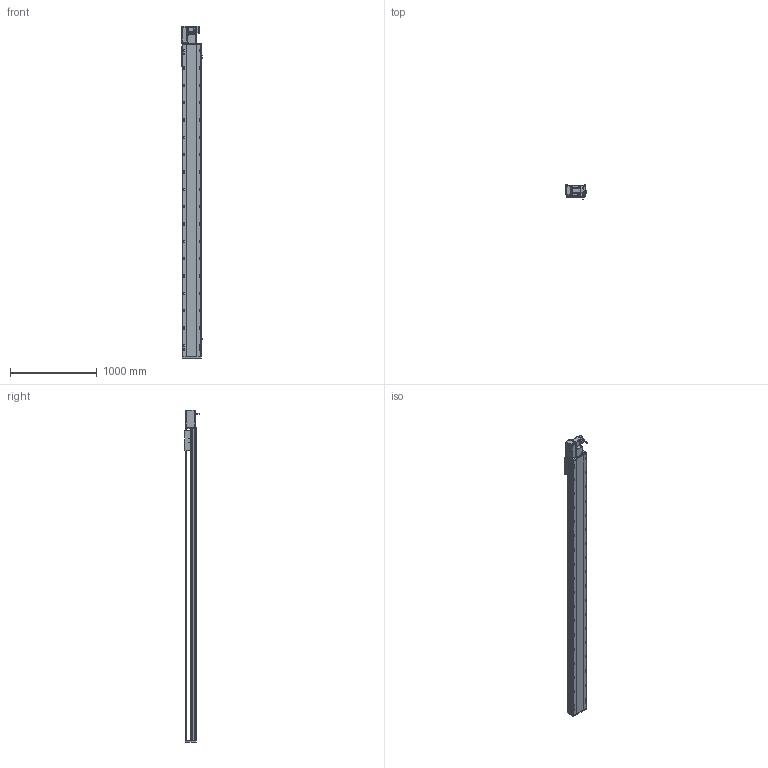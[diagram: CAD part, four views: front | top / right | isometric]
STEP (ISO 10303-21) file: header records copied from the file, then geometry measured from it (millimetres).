
FILE_DESCRIPTION (( 'STEP AP214' ), '1' );
FILE_NAME ('RTB22S-XX-3250-L-M75-C4.STEP', '2025-12-12T03:34:06', ( '' ), ( '' ), 'SwSTEP 2.0', 'SolidWorks 2018', '' );
FILE_SCHEMA (( 'AUTOMOTIVE_DESIGN' ));
Length unit declared in the file: millimetre
Products named in the file (14): RTH22-GY-013外置感应片^RTB22S-XX-XX-L-M75-C4; RTB22S-GY-014--々湍釱^RTB22S-L-々湍釱蚾饜_RTB22S-XX-XX-L-M75-C4; RTB22S-L-011菁釱^RTB22S-XX-XX-L-M75-C4; RTB22S-GY-018P^RTB22S-L-々湍釱蚾饜_RTB22S-XX-XX-L-M75-C4; RTB22S-GY-008-M75--萇儂啣^RTB22S-L-々湍釱蚾饜_RTB22S-XX-XX-L-M75-C4; RTB22S-GY-005P^RTB22S-L-々湍釱蚾饜_RTB22S-XX-XX-L-M75-C4; RTB22S-L-004賑釱^RTB22S-XX-XX-L-M75-C4; OMRON EE-SX672 传感器^RTB22S-XX-XX-L-M75-C4; RTB22S-GY-007奻裔^RTB22S-XX-XX-L-M75-C4; RTB22S-XX-3250-L-M75-C4; RTB22S-L-々湍釱蚾饜^RTB22S-XX-XX-L-M75-C4; 750W萇儂^RTB22S-XX-XX-L-M75-C4; RTB22S-GY-001耜裔^RTB22S-XX-XX-L-M75-C4; RTB22S-GY-017P^RTB22S-L-々湍釱蚾饜_RTB22S-XX-XX-L-M75-C4
Assembly tree (16 placements, depth 3):
  RTB22S-XX-3250-L-M75-C4
    RTB22S-L-011菁釱^RTB22S-XX-XX-L-M75-C4
    750W萇儂^RTB22S-XX-XX-L-M75-C4
    RTB22S-L-004賑釱^RTB22S-XX-XX-L-M75-C4
    OMRON EE-SX672 传感器^RTB22S-XX-XX-L-M75-C4  x3
    RTH22-GY-013外置感应片^RTB22S-XX-XX-L-M75-C4
    RTB22S-GY-007奻裔^RTB22S-XX-XX-L-M75-C4
    RTB22S-GY-001耜裔^RTB22S-XX-XX-L-M75-C4
    RTB22S-L-々湍釱蚾饜^RTB22S-XX-XX-L-M75-C4
      RTB22S-GY-014--々湍釱^RTB22S-L-々湍釱蚾饜_RTB22S-XX-XX-L-M75-C4
      RTB22S-GY-017P^RTB22S-L-々湍釱蚾饜_RTB22S-XX-XX-L-M75-C4  x2
      RTB22S-GY-005P^RTB22S-L-々湍釱蚾饜_RTB22S-XX-XX-L-M75-C4
      RTB22S-GY-008-M75--萇儂啣^RTB22S-L-々湍釱蚾饜_RTB22S-XX-XX-L-M75-C4
      RTB22S-GY-018P^RTB22S-L-々湍釱蚾饜_RTB22S-XX-XX-L-M75-C4
Bounding box: 238.5 x 162.7 x 3829 mm (x, y, z)
Volume: 47497449.8 mm3; surface area: 4838871 mm2
Topology: 15 solids, 15 shells, 2181 faces, 5936 edges, 3782 vertices
Faces by surface type: plane 937, cylinder 754, bspline 296, cone 182, sphere 8, torus 4
Entity records: 60006 total; most frequent: CARTESIAN_POINT 16800, ORIENTED_EDGE 8572, DIRECTION 8440, EDGE_CURVE 4286, AXIS2_PLACEMENT_3D 3050, VERTEX_POINT 2786, VECTOR 2340, LINE 2340
